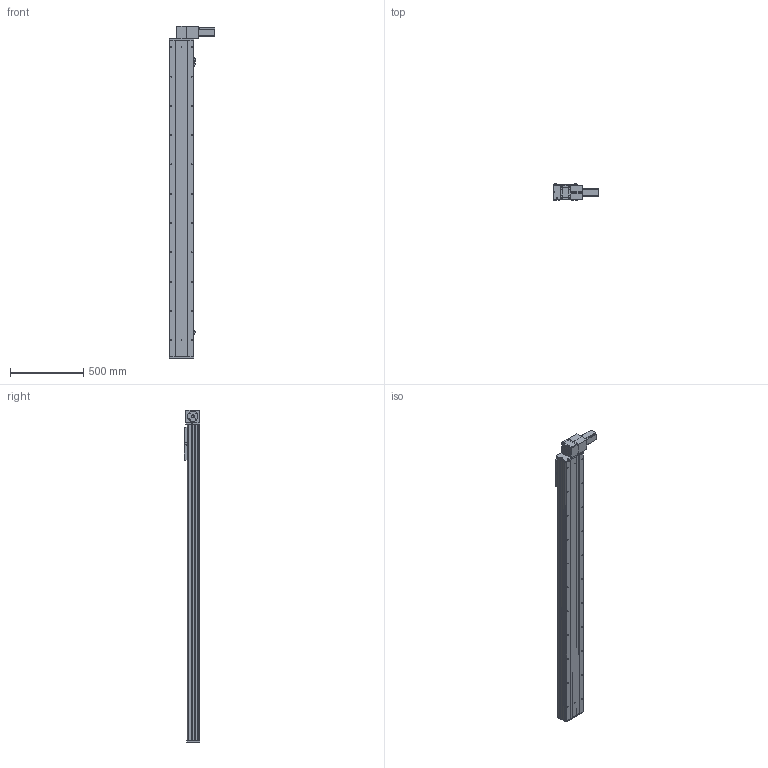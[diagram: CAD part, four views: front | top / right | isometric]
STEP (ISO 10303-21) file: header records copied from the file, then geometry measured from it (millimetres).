
FILE_DESCRIPTION (( 'STEP AP203' ), '1' );
FILE_NAME ('Y170CB-D105-S1850-BD-P400W.STEP', '2020-02-20T08:55:34', ( '微软用户' ), ( '微软中国' ), 'SwSTEP 2.0', 'SolidWorks 2017', '' );
FILE_SCHEMA (( 'CONFIG_CONTROL_DESIGN' ));
Length unit declared in the file: millimetre
Products named in the file (16): Y170CB-陔俋离換覜結え---; --70CB --喘謫眊楊擘啣-; Y1埴倛裔; 70CB-耜裔啣-; 70B喘謫眊----; 70C--詩湍揤踡え-; 0B薊粣ん眊-400W--; 70CB--耜裔; Y170CB-D105-S1850-BD-P400W; 70C-雄赽釱-奻-; 0C--雄赽釱俋欶-170; B-源倛裔啣; 70CB-詩湍--; san松下电机400不带刹车----; Y100-135俋离換覜ん--; 70CB-掛极-
Assembly tree (19 placements, depth 2):
  Y170CB-D105-S1850-BD-P400W
    B-源倛裔啣
    san松下电机400不带刹车----
    70CB-掛极-
    --70CB --喘謫眊楊擘啣-
    70CB-耜裔啣-  x2
    70C--詩湍揤踡え-  x2
    70CB--耜裔
    70C-雄赽釱-奻-
    0C--雄赽釱俋欶-170
    70CB-詩湍--
    Y100-135俋离換覜ん--  x3
    Y170CB-陔俋离換覜結え---
    Y1埴倛裔
    70B喘謫眊----
    0B薊粣ん眊-400W--
Bounding box: 313.5 x 107 x 2266 mm (x, y, z)
Volume: 10173948.6 mm3; surface area: 3534304 mm2
Topology: 19 solids, 19 shells, 952 faces, 2522 edges, 1672 vertices
Faces by surface type: cylinder 506, plane 422, cone 24
Entity records: 29887 total; most frequent: CARTESIAN_POINT 5566, DIRECTION 4863, ORIENTED_EDGE 4526, EDGE_CURVE 2263, AXIS2_PLACEMENT_3D 1801, VERTEX_POINT 1502, LINE 1261, VECTOR 1261
